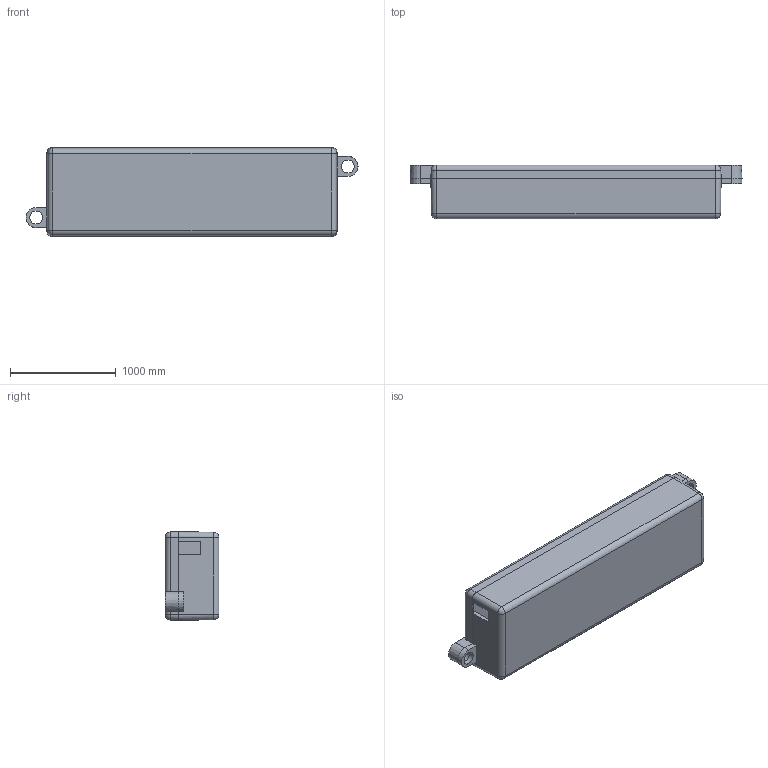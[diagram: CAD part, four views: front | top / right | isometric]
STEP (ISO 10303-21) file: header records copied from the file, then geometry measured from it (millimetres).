
FILE_DESCRIPTION((''),'2;1');
FILE_NAME('AF1_ASM','2015-08-27T',('Administrator'),(''),'PRO/ENGINEER BY PARAMETRIC TECHNOLOGY CORPORATION, 2007450','PRO/ENGINEER BY PARAMETRIC TECHNOLOGY CORPORATION, 2007450','');
FILE_SCHEMA(('CONFIG_CONTROL_DESIGN'));
Length unit declared in the file: inch
Products named in the file (3): BASE; PLASTIC-C; AF1_ASM
Assembly tree (2 placements, depth 2):
  AF1_ASM
    BASE
    PLASTIC-C
Bounding box: 3136.9 x 508 x 838.2 mm (x, y, z)
Volume: 272272026.7 mm3; surface area: 16409059.3 mm2
Topology: 2 solids, 2 shells, 700 faces, 1950 edges, 1253 vertices
Faces by surface type: plane 596, cylinder 76, sphere 16, extrusion 8, cone 4
Entity records: 22188 total; most frequent: CARTESIAN_POINT 4406, ORIENTED_EDGE 3868, DIRECTION 3314, EDGE_CURVE 1934, VECTOR 1764, LINE 1756, VERTEX_POINT 1253, AXIS2_PLACEMENT_3D 775
